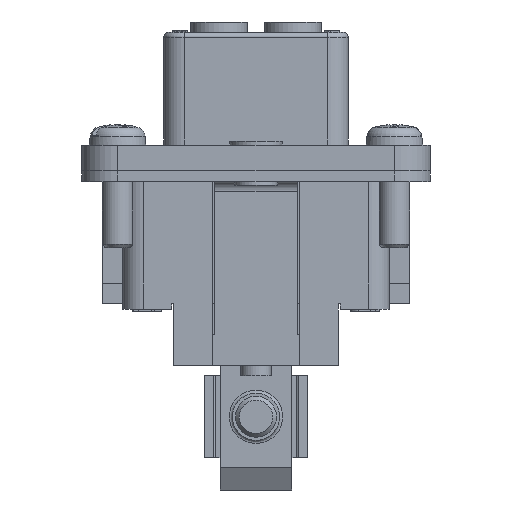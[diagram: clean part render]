
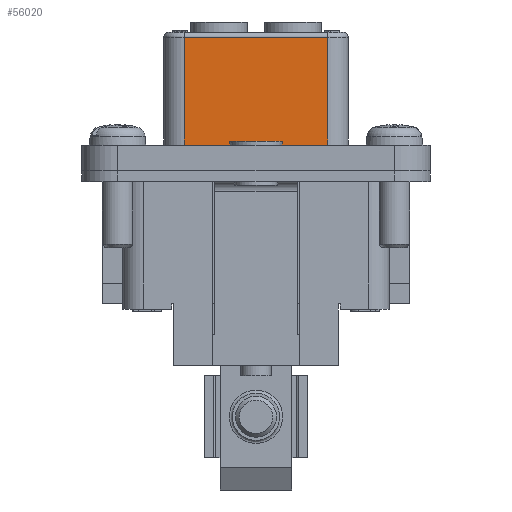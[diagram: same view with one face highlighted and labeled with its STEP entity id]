
A CAD part, front view. The second image highlights one B-rep face of the part: STEP entity #56020.
In plain terms, the highlighted planar face has unit normal (0, -1, 0).
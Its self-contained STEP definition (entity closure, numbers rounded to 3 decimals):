
#28881=CARTESIAN_POINT('',(7.,-5.5,16.));
#28882=VERTEX_POINT('',#28881);
#28890=CARTESIAN_POINT('',(-7.,-5.5,16.));
#28891=VERTEX_POINT('',#28890);
#28892=CARTESIAN_POINT('',(7.,-5.5,16.));
#28893=DIRECTION('',(-1.0,0.0,0.0));
#28894=VECTOR('',#28893,14.);
#28895=LINE('',#28892,#28894);
#28896=EDGE_CURVE('',#28882,#28891,#28895,.T.);
#55977=CARTESIAN_POINT('',(7.,-5.5,26.5));
#55978=VERTEX_POINT('',#55977);
#55986=CARTESIAN_POINT('',(7.,-5.5,26.5));
#55987=DIRECTION('',(0.0,0.0,-1.0));
#55988=VECTOR('',#55987,10.5);
#55989=LINE('',#55986,#55988);
#55990=EDGE_CURVE('',#55978,#28882,#55989,.T.);
#55997=CARTESIAN_POINT('',(-7.,-5.5,27.));
#55998=DIRECTION('',(0.0,-1.0,0.0));
#55999=DIRECTION('',(0.0,0.0,-1.0));
#56000=AXIS2_PLACEMENT_3D('',#55997,#55998,#55999);
#56001=PLANE('',#56000);
#56002=CARTESIAN_POINT('',(-7.,-5.5,26.5));
#56003=VERTEX_POINT('',#56002);
#56004=CARTESIAN_POINT('',(-7.,-5.5,26.5));
#56005=DIRECTION('',(1.0,0.0,0.0));
#56006=VECTOR('',#56005,14.);
#56007=LINE('',#56004,#56006);
#56008=EDGE_CURVE('',#56003,#55978,#56007,.T.);
#56009=ORIENTED_EDGE('',*,*,#56008,.F.);
#56010=CARTESIAN_POINT('',(-7.,-5.5,26.5));
#56011=DIRECTION('',(0.0,0.0,-1.0));
#56012=VECTOR('',#56011,10.5);
#56013=LINE('',#56010,#56012);
#56014=EDGE_CURVE('',#56003,#28891,#56013,.T.);
#56015=ORIENTED_EDGE('',*,*,#56014,.T.);
#56016=ORIENTED_EDGE('',*,*,#28896,.F.);
#56017=ORIENTED_EDGE('',*,*,#55990,.F.);
#56018=EDGE_LOOP('',(#56009,#56015,#56016,#56017));
#56019=FACE_OUTER_BOUND('',#56018,.T.);
#56020=ADVANCED_FACE('',(#56019),#56001,.T.);
